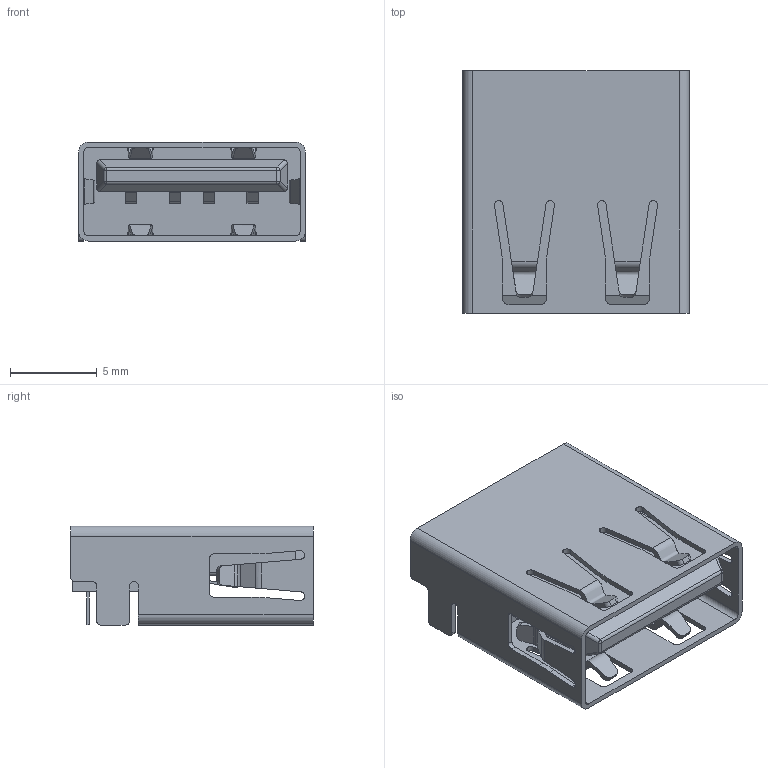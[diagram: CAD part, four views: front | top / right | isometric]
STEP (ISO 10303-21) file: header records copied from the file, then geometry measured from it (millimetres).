
FILE_DESCRIPTION (( 'STEP AP214' ), '1' );
FILE_NAME ('USB-A-TH_4P-L13.1-W14.1-H5.7-S1.45.step', '2022-07-15T08:15:34', ( '' ), ( '' ), 'SwSTEP 2.0', 'SolidWorks 2020', '' );
FILE_SCHEMA (( 'AUTOMOTIVE_DESIGN' ));
Length unit declared in the file: millimetre
Products named in the file (1): USB-A-TH_4P-L13.1-W14.1-H5.7-S1.45
Bounding box: 13.1 x 14 x 5.77 mm (x, y, z)
Volume: 498.5 mm3; surface area: 1495 mm2
Topology: 2 solids, 2 shells, 745 faces, 1989 edges, 1274 vertices
Faces by surface type: plane 463, cylinder 158, bspline 120, sphere 4
Entity records: 32993 total; most frequent: CARTESIAN_POINT 6993, ORIENTED_EDGE 3970, DIRECTION 3193, EDGE_CURVE 1985, VECTOR 1421, LINE 1421, VERTEX_POINT 1274, AXIS2_PLACEMENT_3D 886
